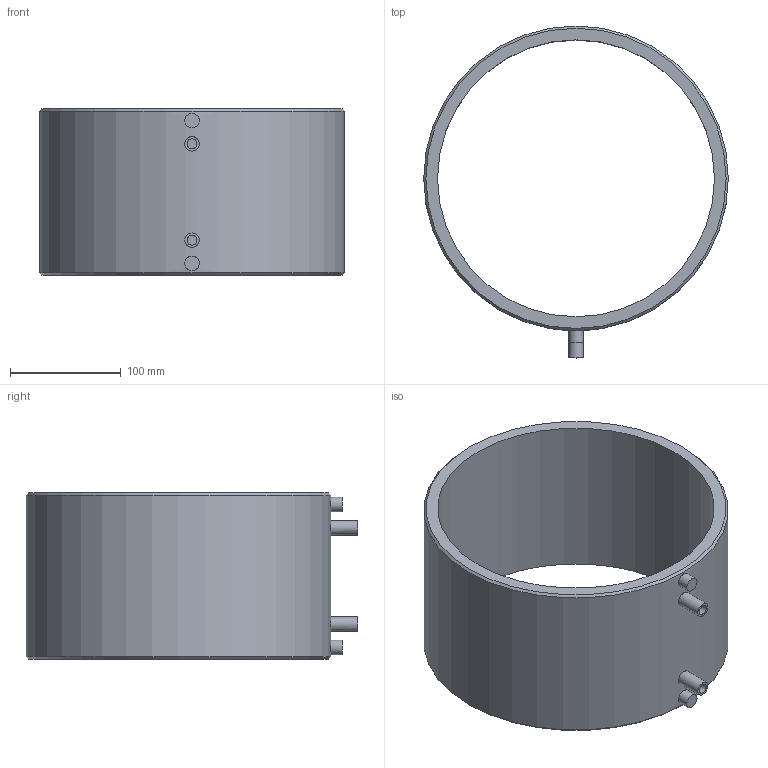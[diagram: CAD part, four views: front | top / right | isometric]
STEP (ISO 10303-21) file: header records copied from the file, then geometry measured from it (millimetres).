
FILE_DESCRIPTION(/* description */ (''),/* implementation_level */ '2;1');
FILE_NAME(/* name */ 'Z:\Geberit\Export\NewStep\371775.stp',/* time_stamp */ '2014-04-02T08:05:58+02:00',/* author */ ('Marco'),/* organization */ (''),/* preprocessor_version */ 'ST-DEVELOPER v15.2',/* originating_system */ 'Autodesk Inventor 2014',/* authorisation */ '');
FILE_SCHEMA (('AUTOMOTIVE_DESIGN { 1 0 10303 214 3 1 1 }'));
Length unit declared in the file: millimetre
Products named in the file (1): 371775
Bounding box: 275 x 299.5 x 150 mm (x, y, z)
Volume: 1548971.5 mm3; surface area: 270240.6 mm2
Topology: 1 solids, 1 shells, 18 faces, 28 edges, 18 vertices
Faces by surface type: cylinder 10, plane 6, cone 2
Full cylindrical faces by diameter (mm): 9 x2, 13 x4, 250 x1, 275 x1
Entity records: 569 total; most frequent: CARTESIAN_POINT 253, DIRECTION 62, EDGE_LOOP 36, ORIENTED_EDGE 36, AXIS2_PLACEMENT_3D 31, FACE_BOUND 22, VERTEX_POINT 18, EDGE_CURVE 18
